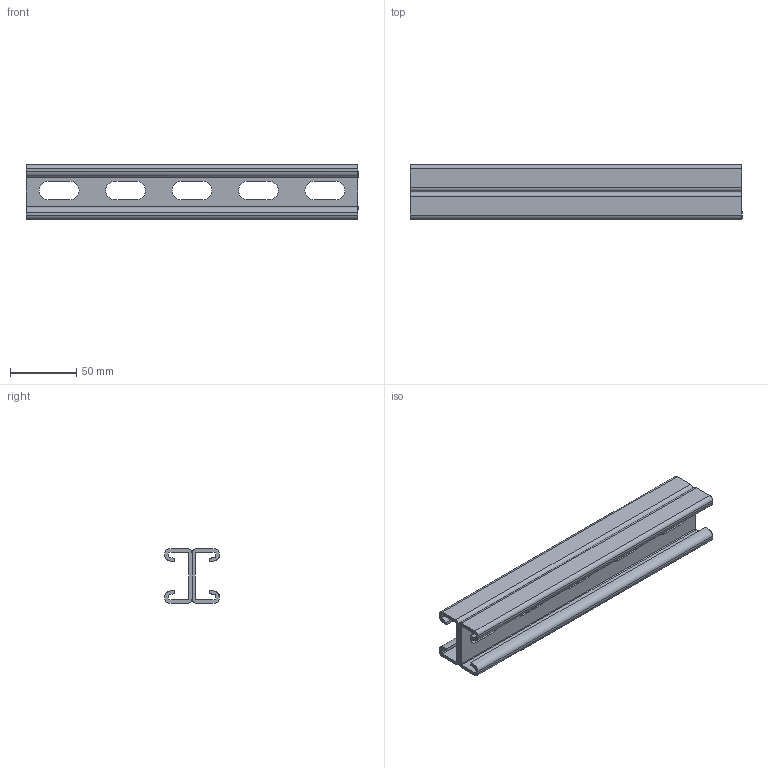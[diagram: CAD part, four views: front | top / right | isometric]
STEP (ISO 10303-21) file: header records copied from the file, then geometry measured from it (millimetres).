
FILE_DESCRIPTION (( 'STEP AP203' ), '1' );
FILE_NAME ('3D_R6620_173485900.STEP', '2024-08-06T11:28:35', ( '' ), ( '' ), 'SwSTEP 2.0', 'SolidWorks 2024', '' );
FILE_SCHEMA (( 'CONFIG_CONTROL_DESIGN' ));
Length unit declared in the file: millimetre
Products named in the file (1): 3D_R6620_173485900
Bounding box: 250 x 41 x 41 mm (x, y, z)
Volume: 109333.2 mm3; surface area: 79189.7 mm2
Topology: 1 solids, 1 shells, 120 faces, 302 edges, 184 vertices
Faces by surface type: cylinder 50, plane 38, bspline 16, torus 16
Entity records: 4657 total; most frequent: CARTESIAN_POINT 1729, ORIENTED_EDGE 604, DIRECTION 588, EDGE_CURVE 302, AXIS2_PLACEMENT_3D 213, VERTEX_POINT 184, LINE 162, VECTOR 162
